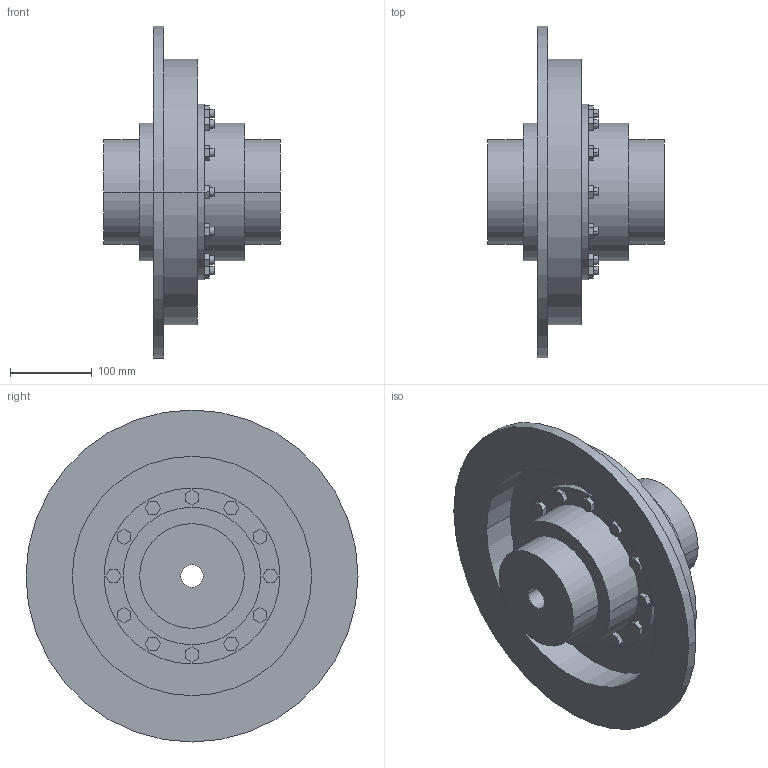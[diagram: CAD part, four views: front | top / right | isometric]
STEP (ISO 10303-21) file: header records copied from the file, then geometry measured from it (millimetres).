
FILE_DESCRIPTION((''),'2;1');
FILE_NAME('A19126100-0_ASM','2018-11-13T',('AB_Roschiwal'),('RENK AG'),'PRO/ENGINEER BY PARAMETRIC TECHNOLOGY CORPORATION, 2015440','PRO/ENGINEER BY PARAMETRIC TECHNOLOGY CORPORATION, 2015440','');
FILE_SCHEMA(('CONFIG_CONTROL_DESIGN'));
Length unit declared in the file: millimetre
Products named in the file (4): LBKT80_GEHAEUSE; LBKT80_NABE; LBKT80_BREMSSCHEIBE; A19126100-0_ASM
Assembly tree (4 placements, depth 2):
  A19126100-0_ASM
    LBKT80_GEHAEUSE
    LBKT80_NABE  x2
    LBKT80_BREMSSCHEIBE
Bounding box: 216 x 406 x 406 mm (x, y, z)
Volume: 5654465.7 mm3; surface area: 713992.8 mm2
Topology: 4 solids, 4 shells, 294 faces, 708 edges, 472 vertices
Faces by surface type: plane 202, cylinder 92
Entity records: 8412 total; most frequent: DIRECTION 1432, CARTESIAN_POINT 1430, ORIENTED_EDGE 1368, EDGE_CURVE 684, VECTOR 516, LINE 516, AXIS2_PLACEMENT_3D 458, VERTEX_POINT 456
